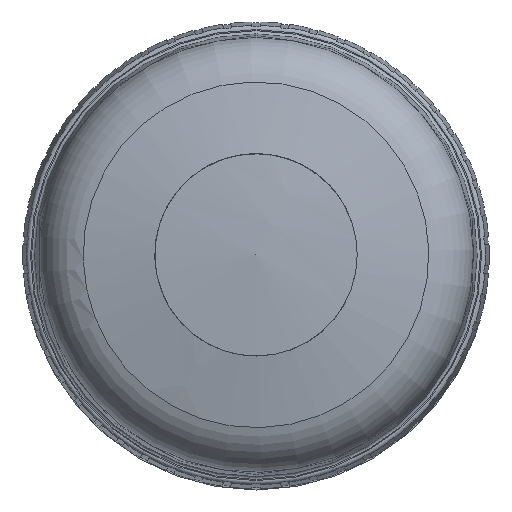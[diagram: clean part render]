
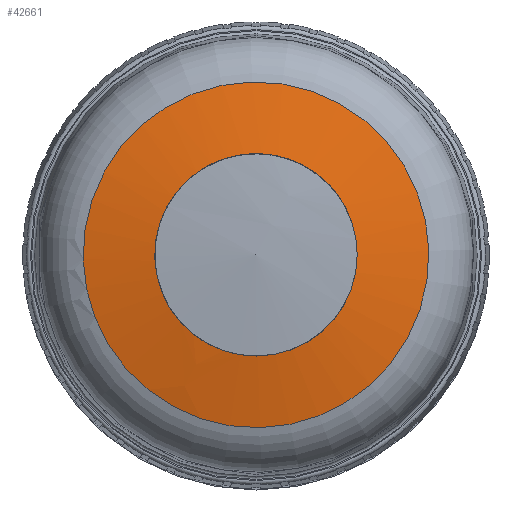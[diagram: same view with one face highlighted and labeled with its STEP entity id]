
A CAD part, top view. The second image highlights one B-rep face of the part: STEP entity #42661.
In plain terms, the highlighted spherical face has radius 181.343 mm.
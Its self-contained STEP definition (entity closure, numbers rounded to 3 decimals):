
#22=SPHERICAL_SURFACE('',#46015,181.343);
#7150=FACE_OUTER_BOUND('',#9983,.T.);
#9983=EDGE_LOOP('',(#32224,#32225,#32226,#32227,#32228));
#12699=CIRCLE('',#46013,42.538);
#12700=CIRCLE('',#46016,181.343);
#12701=CIRCLE('',#46017,24.9);
#12702=CIRCLE('',#46018,24.9);
#18556=VERTEX_POINT('',#79482);
#18557=VERTEX_POINT('',#79487);
#18558=VERTEX_POINT('',#79489);
#23423=EDGE_CURVE('',#18556,#18556,#12699,.T.);
#23424=EDGE_CURVE('',#18556,#18557,#12700,.T.);
#23425=EDGE_CURVE('',#18558,#18557,#12701,.T.);
#23426=EDGE_CURVE('',#18557,#18558,#12702,.T.);
#32224=ORIENTED_EDGE('',*,*,#23423,.F.);
#32225=ORIENTED_EDGE('',*,*,#23424,.T.);
#32226=ORIENTED_EDGE('',*,*,#23425,.F.);
#32227=ORIENTED_EDGE('',*,*,#23426,.F.);
#32228=ORIENTED_EDGE('',*,*,#23424,.F.);
#42661=ADVANCED_FACE('',(#7150),#22,.T.);
#46013=AXIS2_PLACEMENT_3D('',#79484,#51546,#51547);
#46015=AXIS2_PLACEMENT_3D('',#79486,#51550,#51551);
#46016=AXIS2_PLACEMENT_3D('',#79488,#51552,#51553);
#46017=AXIS2_PLACEMENT_3D('',#79490,#51554,#51555);
#46018=AXIS2_PLACEMENT_3D('',#79491,#51556,#51557);
#51546=DIRECTION('center_axis',(0.,0.,-1.));
#51547=DIRECTION('ref_axis',(-1.,0.,0.));
#51550=DIRECTION('center_axis',(0.,0.,-1.));
#51551=DIRECTION('ref_axis',(0.479,0.878,0.));
#51552=DIRECTION('center_axis',(-0.878,0.479,0.));
#51553=DIRECTION('ref_axis',(-0.479,-0.878,0.));
#51554=DIRECTION('center_axis',(0.,0.,1.));
#51555=DIRECTION('ref_axis',(-1.,0.,0.));
#51556=DIRECTION('center_axis',(0.,0.,1.));
#51557=DIRECTION('ref_axis',(-1.,0.,0.));
#79482=CARTESIAN_POINT('',(-20.394,162.669,53.15));
#79484=CARTESIAN_POINT('Origin',(0.,200.,
53.15));
#79486=CARTESIAN_POINT('Origin',(0.,200.,
-123.133));
#79487=CARTESIAN_POINT('',(-11.937,178.149,56.492));
#79488=CARTESIAN_POINT('Origin',(0.,200.,
-123.133));
#79489=CARTESIAN_POINT('',(24.9,200.,56.492));
#79490=CARTESIAN_POINT('Origin',(0.,200.,
56.492));
#79491=CARTESIAN_POINT('Origin',(0.,200.,
56.492));
